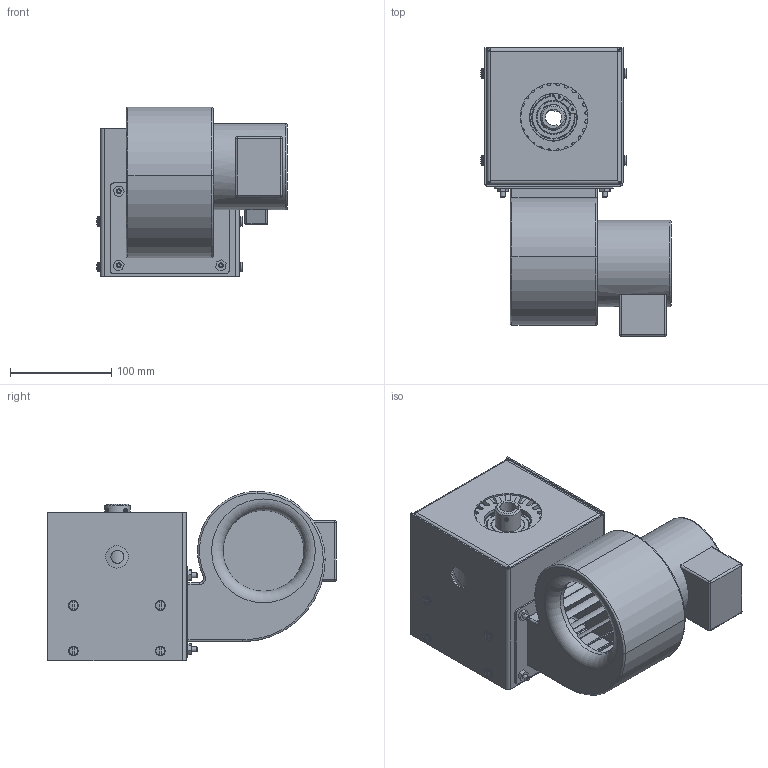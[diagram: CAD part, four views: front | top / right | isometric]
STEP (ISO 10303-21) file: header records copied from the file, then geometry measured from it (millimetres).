
FILE_DESCRIPTION(/* description */ ('STEP AP214'),/* implementation_level */ '2;1');
FILE_NAME(/* name */ '5MBA90S_stp.step',/* time_stamp */ '2026-05-12T14:16:31-05:00',/* author */ (''),/* organization */ (''),/* preprocessor_version */ 'ST-DEVELOPER v20.1',/* originating_system */ 'Autodesk Translation Framework v15.8.0.0',/* authorisation */ '');
FILE_SCHEMA (('AUTOMOTIVE_DESIGN { 1 0 10303 214 3 1 1 }'));
Length unit declared in the file: inch
Products named in the file (1): 5MBA90S_asm_stp
Bounding box: 188.19 x 284.53 x 166.97 mm (x, y, z)
Volume: 1259920.6 mm3; surface area: 580046.5 mm2
Topology: 2 solids, 21 shells, 1489 faces, 3657 edges, 2221 vertices
Faces by surface type: plane 765, cylinder 437, cone 105, torus 102, sphere 49, bspline 31
Full cylindrical faces by diameter (mm): 2.362 x4, 2.434 x3, 3.251 x1, 3.451 x8, 3.454 x8, 3.797 x4, 3.81 x9, 4.039 x2, 4.166 x8, 4.826 x8, 4.902 x4, 5.207 x12, 5.537 x6, 5.563 x3, 5.953 x3, 6.35 x11, 6.858 x6, 7.137 x4, 9.474 x9, 11.112 x1, 12.7 x5, 22.225 x2, 23.52 x4, 25.011 x7, 25.4 x1, 32.318 x8, 32.868 x4, 34.925 x2, 38.1 x2, 41.83 x8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
Entity records: 48583 total; most frequent: CARTESIAN_POINT 12704, DIRECTION 7979, ORIENTED_EDGE 7222, EDGE_CURVE 3611, AXIS2_PLACEMENT_3D 3127, VERTEX_POINT 2221, LINE 1725, VECTOR 1725
